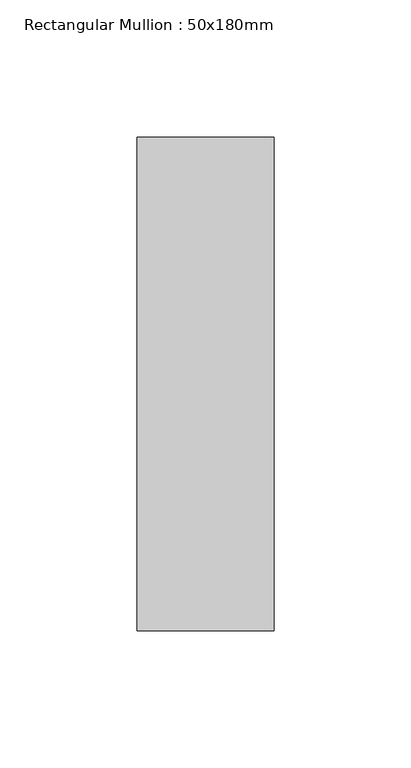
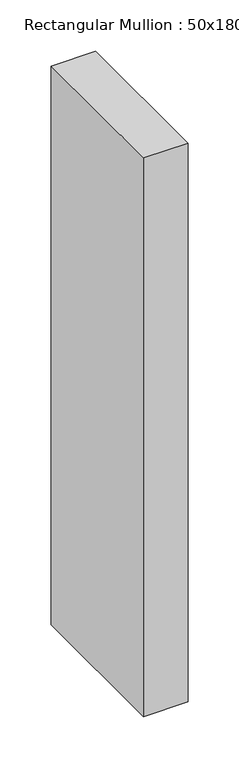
"""IFC4 building model written with IfcOpenShell, lengths in millimetres: member geometry, Rectangular Mullion : 50x180mm."""

from ifc_helpers import new_model, si_unit, frame, origin, place, context, project, spatial, polyline, outline, extrude, source, transform, mapped, element, save


def rectangular_mullion_50x180mm_f9fd6882(model_context):
    return source(origin(), model_context, "Body", "SweptSolid", [
        extrude(outline(polyline([(0.0, 90.0), (0.0, -90.0), (-50.0, -90.0), (-50.0, 90.0), (0.0, 90.0)])), frame((0.0, 0.0, -665.0), z_axis=(0.0, 0.0, 1.0), x_axis=(1.0, 0.0, 0.0)), (0.0, 0.0, 1.0), 665.0),
    ])


if __name__ == "__main__":
    model = new_model("IFC4")
    model_context = context("Model", 3, world=origin())
    ifc_project = project(units=[si_unit("LENGTHUNIT", "METRE", prefix="MILLI")], contexts=[model_context])
    site = spatial("IfcSite", under=ifc_project)
    building = spatial("IfcBuilding", under=site)
    placement = place(None, origin())
    rectangular_mullion_50x180mm_shape = rectangular_mullion_50x180mm_f9fd6882(model_context)
    element("IfcMember", 1, ObjectType="Rectangular Mullion : 50x180mm", at=placement, inside=building, context=model_context, shape_type="MappedRepresentation", body=[
        mapped(rectangular_mullion_50x180mm_shape, transform((0.0, 0.0, 0.0), x_axis=(1.0, 0.0, 0.0), y_axis=(0.0, 1.0, 0.0), z_axis=(0.0, 0.0, 1.0))),
    ])
    save(model, "model.ifc")
